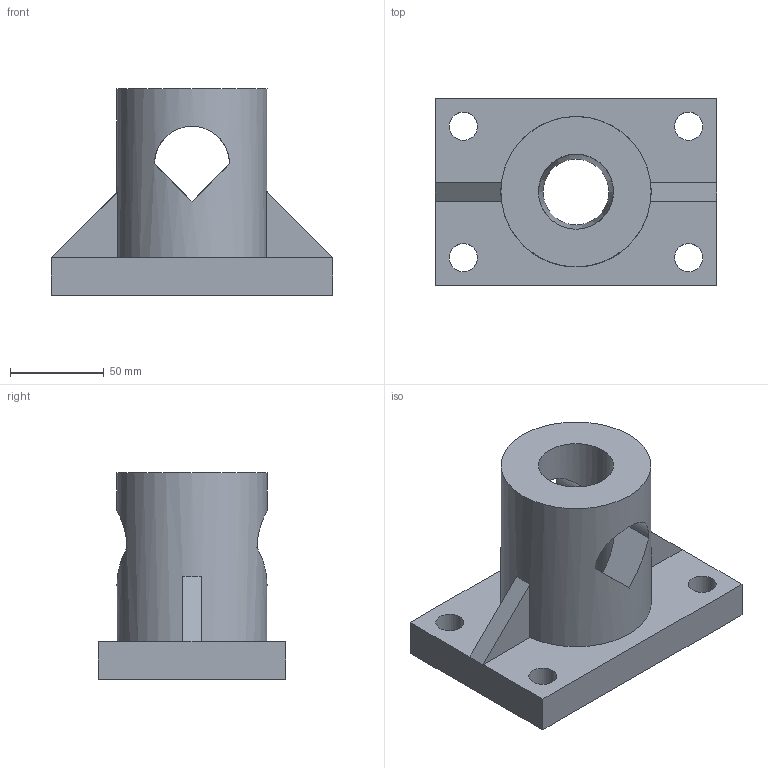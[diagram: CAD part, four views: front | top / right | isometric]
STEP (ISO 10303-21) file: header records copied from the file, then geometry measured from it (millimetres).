
FILE_DESCRIPTION(('TFLEX Exchange Step'),'2;1');
FILE_NAME('X2\041A043E0440043F04430441\X0\ вар 6.stp', '2025-06-24T11:13:44+03:00',('alymo'),('Unknown organisation'),'TFLEX Exchange 2023.0','T-FLEX CAD','Unknown authorisation');
FILE_SCHEMA( ('AUTOMOTIVE_DESIGN { 1 0 10303 214 1 1 1 1 }') );
Length unit declared in the file: millimetre
Products named in the file (1): Nodes
Bounding box: 150 x 100 x 110 mm (x, y, z)
Volume: 571142.4 mm3; surface area: 79527.3 mm2
Topology: 1 solids, 1 shells, 28 faces, 95 edges, 67 vertices
Faces by surface type: plane 18, cylinder 9, cone 1
Full cylindrical faces by diameter (mm): 15 x4, 40 x2, 80 x1
Entity records: 1314 total; most frequent: CARTESIAN_POINT 395, ORIENTED_EDGE 190, DIRECTION 186, EDGE_CURVE 95, VERTEX_POINT 67, AXIS2_PLACEMENT_3D 64, VECTOR 58, LINE 58
